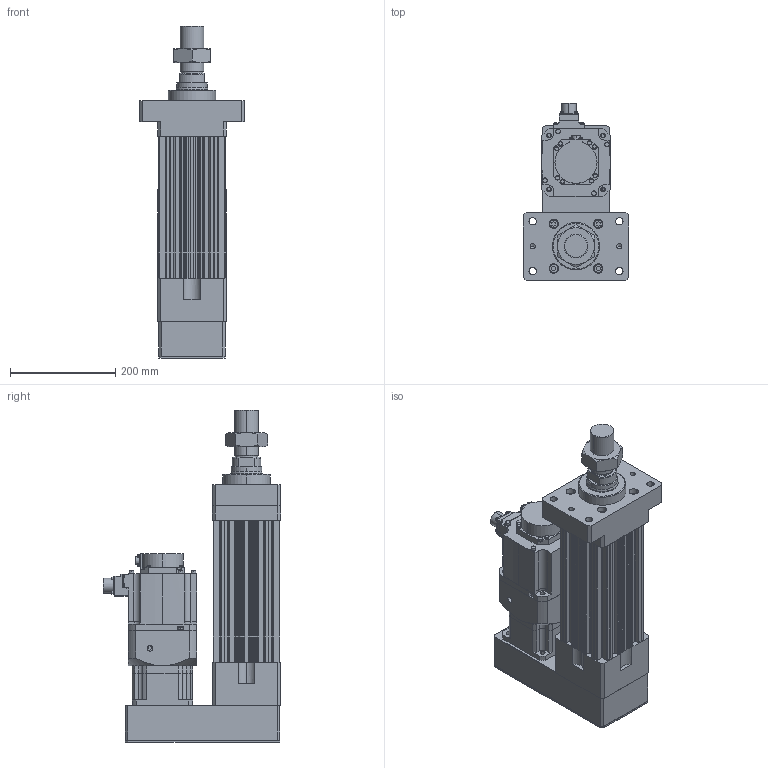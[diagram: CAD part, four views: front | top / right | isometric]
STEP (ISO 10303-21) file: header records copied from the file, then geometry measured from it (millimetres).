
FILE_DESCRIPTION (( 'STEP AP203' ), '1' );
FILE_NAME ('HES130NS(FS)(HS)-P050-W015G00-M-FMA.STEP', '2023-01-29T04:11:06', ( 'tms' ), ( '' ), 'SwSTEP 2.0', 'SolidWorks 2013', '' );
FILE_SCHEMA (( 'CONFIG_CONTROL_DESIGN' ));
Length unit declared in the file: millimetre
Products named in the file (8): AB1151; AB115-003[HG-SR152]; M45X1.5P; HG-SR152; HES130-P050-G120-FMA; HES130 ROD M ST050; HES130NS(FS)(HS)-P050-W015G00-M-FMA; P0401400706
Assembly tree (7 placements, depth 3):
  HES130NS(FS)(HS)-P050-W015G00-M-FMA
    HES130-P050-G120-FMA
    HES130 ROD M ST050
    M45X1.5P
    AB115-003[HG-SR152]
      AB1151
      P0401400706
    HG-SR152
Bounding box: 200 x 337.49 x 632 mm (x, y, z)
Volume: 8828437.5 mm3; surface area: 942329.2 mm2
Topology: 4 solids, 11 shells, 1082 faces, 2768 edges, 1799 vertices
Faces by surface type: cylinder 513, plane 489, cone 68, bspline 8, torus 4
Entity records: 34626 total; most frequent: CARTESIAN_POINT 6632, DIRECTION 5993, ORIENTED_EDGE 5484, EDGE_CURVE 2752, AXIS2_PLACEMENT_3D 2228, VERTEX_POINT 1799, LINE 1537, VECTOR 1537
